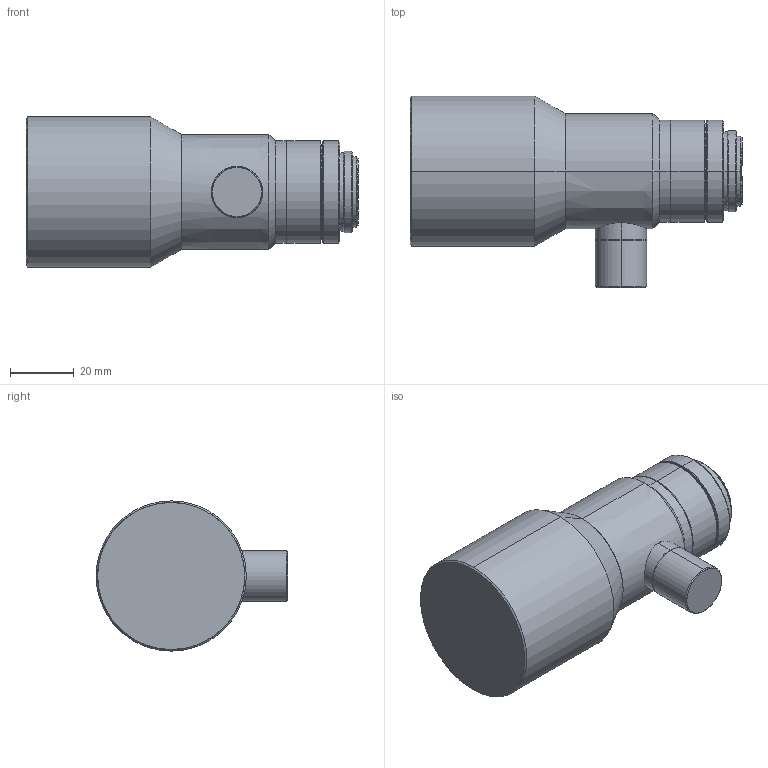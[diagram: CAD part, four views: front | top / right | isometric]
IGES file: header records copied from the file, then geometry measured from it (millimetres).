
Start section: SolidWorks IGES file using analytic representation for surfaces
Bounding box: 103.85 x 60 x 47 mm (x, y, z)
Surface area: 16710.6 mm2 (no closed solid volume)
Topology: 0 solids, 0 shells, 62 faces, 962 edges, 962 vertices
Faces by surface type: revolution 54, bspline 8
